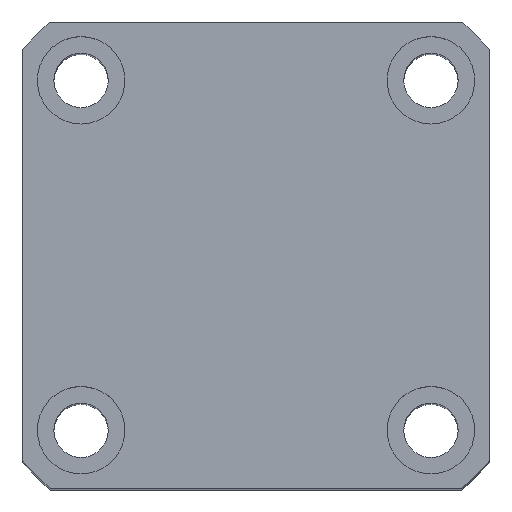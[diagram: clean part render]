
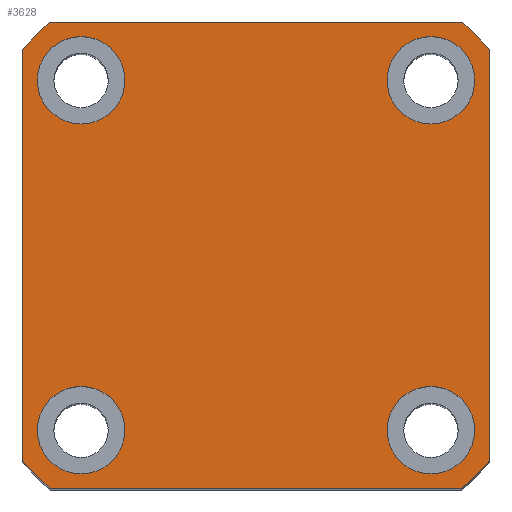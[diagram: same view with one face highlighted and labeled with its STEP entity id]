
A CAD part, top view. The second image highlights one B-rep face of the part: STEP entity #3628.
In plain terms, the highlighted planar face has unit normal (0, 0, 1) as drawn and (1, 0, 0) by its records, which use the part's own axes.
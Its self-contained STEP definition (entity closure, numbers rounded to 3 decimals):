
#113 = DIRECTION ( 'NONE',  ( 0., 0., 1. ) ) ;
#150 = EDGE_CURVE ( 'NONE', #305, #4327, #3850, .T. ) ;
#210 = CIRCLE ( 'NONE', #7398, 4.5 ) ;
#250 = EDGE_CURVE ( 'NONE', #878, #2947, #5671, .T. ) ;
#252 = ORIENTED_EDGE ( 'NONE', *, *, #399, .T. ) ;
#289 = DIRECTION ( 'NONE',  ( 1., 0., 0. ) ) ;
#305 = VERTEX_POINT ( 'NONE', #1514 ) ;
#342 = EDGE_LOOP ( 'NONE', ( #6579, #6403, #2527, #2973, #2454, #1235, #252, #1644 ) ) ;
#399 = EDGE_CURVE ( 'NONE', #5045, #1532, #7583, .T. ) ;
#494 = CARTESIAN_POINT ( 'NONE',  ( 90., 18., 22.5 ) ) ;
#692 = CARTESIAN_POINT ( 'NONE',  ( 90., 21.166, -24. ) ) ;
#705 = CARTESIAN_POINT ( 'NONE',  ( 90., -18., -18. ) ) ;
#721 = ORIENTED_EDGE ( 'NONE', *, *, #150, .F. ) ;
#725 = AXIS2_PLACEMENT_3D ( 'NONE', #1821, #6158, #2448 ) ;
#766 = CARTESIAN_POINT ( 'NONE',  ( 90., 18., 13.5 ) ) ;
#775 = DIRECTION ( 'NONE',  ( 1., 0., 0. ) ) ;
#796 = DIRECTION ( 'NONE',  ( 0., 0., -1. ) ) ;
#825 = DIRECTION ( 'NONE',  ( 1., 0., 0. ) ) ;
#875 = CARTESIAN_POINT ( 'NONE',  ( 90., -24., 24. ) ) ;
#878 = VERTEX_POINT ( 'NONE', #3706 ) ;
#890 = CIRCLE ( 'NONE', #3248, 32. ) ;
#968 = VECTOR ( 'NONE', #1421, 1000. ) ;
#974 = CARTESIAN_POINT ( 'NONE',  ( 90., 24., 21.166 ) ) ;
#1075 = VERTEX_POINT ( 'NONE', #2742 ) ;
#1095 = EDGE_CURVE ( 'NONE', #7780, #1755, #6697, .T. ) ;
#1165 = VERTEX_POINT ( 'NONE', #1957 ) ;
#1183 = DIRECTION ( 'NONE',  ( 1., 0., 0. ) ) ;
#1235 = ORIENTED_EDGE ( 'NONE', *, *, #1430, .T. ) ;
#1258 = CARTESIAN_POINT ( 'NONE',  ( 90., -24., -21.166 ) ) ;
#1309 = DIRECTION ( 'NONE',  ( 0., -1., 0. ) ) ;
#1386 = ORIENTED_EDGE ( 'NONE', *, *, #7491, .F. ) ;
#1415 = CARTESIAN_POINT ( 'NONE',  ( 90., 18., -18. ) ) ;
#1421 = DIRECTION ( 'NONE',  ( 0., 0., -1. ) ) ;
#1430 = EDGE_CURVE ( 'NONE', #1075, #5045, #3943, .T. ) ;
#1452 = CARTESIAN_POINT ( 'NONE',  ( 90., 0., 0. ) ) ;
#1477 = CIRCLE ( 'NONE', #725, 4.5 ) ;
#1494 = LINE ( 'NONE', #7402, #7874 ) ;
#1498 = VERTEX_POINT ( 'NONE', #2482 ) ;
#1514 = CARTESIAN_POINT ( 'NONE',  ( 90., -18., 13.5 ) ) ;
#1532 = VERTEX_POINT ( 'NONE', #1258 ) ;
#1644 = ORIENTED_EDGE ( 'NONE', *, *, #7660, .T. ) ;
#1755 = VERTEX_POINT ( 'NONE', #2821 ) ;
#1792 = DIRECTION ( 'NONE',  ( 1., 0., 0. ) ) ;
#1821 = CARTESIAN_POINT ( 'NONE',  ( 90., 18., -18. ) ) ;
#1957 = CARTESIAN_POINT ( 'NONE',  ( 90., 21.166, 24. ) ) ;
#2101 = DIRECTION ( 'NONE',  ( 0., 0., -1. ) ) ;
#2137 = EDGE_CURVE ( 'NONE', #2947, #878, #210, .T. ) ;
#2190 = CIRCLE ( 'NONE', #6954, 32. ) ;
#2314 = CARTESIAN_POINT ( 'NONE',  ( 90., -18., 22.5 ) ) ;
#2448 = DIRECTION ( 'NONE',  ( 0., 0., -1. ) ) ;
#2454 = ORIENTED_EDGE ( 'NONE', *, *, #3236, .T. ) ;
#2473 = VERTEX_POINT ( 'NONE', #6766 ) ;
#2482 = CARTESIAN_POINT ( 'NONE',  ( 90., -21.166, -24. ) ) ;
#2500 = CARTESIAN_POINT ( 'NONE',  ( 90., 0., 0. ) ) ;
#2524 = DIRECTION ( 'NONE',  ( 1., 0., 0. ) ) ;
#2527 = ORIENTED_EDGE ( 'NONE', *, *, #2571, .T. ) ;
#2571 = EDGE_CURVE ( 'NONE', #2473, #6496, #4060, .T. ) ;
#2742 = CARTESIAN_POINT ( 'NONE',  ( 90., -21.166, 24. ) ) ;
#2821 = CARTESIAN_POINT ( 'NONE',  ( 90., 18., -13.5 ) ) ;
#2896 = EDGE_LOOP ( 'NONE', ( #721, #6880 ) ) ;
#2947 = VERTEX_POINT ( 'NONE', #4817 ) ;
#2973 = ORIENTED_EDGE ( 'NONE', *, *, #3530, .T. ) ;
#3059 = VERTEX_POINT ( 'NONE', #494 ) ;
#3083 = AXIS2_PLACEMENT_3D ( 'NONE', #2500, #2524, #6851 ) ;
#3162 = CARTESIAN_POINT ( 'NONE',  ( 90., 24., 24. ) ) ;
#3171 = LINE ( 'NONE', #3162, #3382 ) ;
#3203 = DIRECTION ( 'NONE',  ( 1., 0., 0. ) ) ;
#3212 = EDGE_CURVE ( 'NONE', #1498, #3276, #1494, .T. ) ;
#3236 = EDGE_CURVE ( 'NONE', #1165, #1075, #3171, .T. ) ;
#3248 = AXIS2_PLACEMENT_3D ( 'NONE', #1452, #5814, #2101 ) ;
#3253 = CARTESIAN_POINT ( 'NONE',  ( 90., -18., -18. ) ) ;
#3276 = VERTEX_POINT ( 'NONE', #692 ) ;
#3283 = CARTESIAN_POINT ( 'NONE',  ( 90., 24., 24. ) ) ;
#3343 = AXIS2_PLACEMENT_3D ( 'NONE', #6884, #3203, #7498 ) ;
#3382 = VECTOR ( 'NONE', #1309, 1000. ) ;
#3392 = EDGE_CURVE ( 'NONE', #3276, #2473, #890, .T. ) ;
#3530 = EDGE_CURVE ( 'NONE', #6496, #1165, #2190, .T. ) ;
#3628 = ADVANCED_FACE ( 'NONE', ( #6531, #6344, #4915, #7970, #4727 ), #5008, .T. ) ;
#3665 = CARTESIAN_POINT ( 'NONE',  ( 90., -18., 18. ) ) ;
#3692 = DIRECTION ( 'NONE',  ( 1., 0., 0. ) ) ;
#3706 = CARTESIAN_POINT ( 'NONE',  ( 90., -18., -13.5 ) ) ;
#3850 = CIRCLE ( 'NONE', #4325, 4.5 ) ;
#3884 = DIRECTION ( 'NONE',  ( 0., 0., -1. ) ) ;
#3943 = CIRCLE ( 'NONE', #4696, 32. ) ;
#4060 = LINE ( 'NONE', #3283, #7124 ) ;
#4199 = ORIENTED_EDGE ( 'NONE', *, *, #2137, .F. ) ;
#4291 = DIRECTION ( 'NONE',  ( 0., 0., -1. ) ) ;
#4325 = AXIS2_PLACEMENT_3D ( 'NONE', #5387, #6056, #4716 ) ;
#4327 = VERTEX_POINT ( 'NONE', #2314 ) ;
#4378 = ORIENTED_EDGE ( 'NONE', *, *, #5444, .F. ) ;
#4416 = EDGE_CURVE ( 'NONE', #4327, #305, #6710, .T. ) ;
#4559 = CARTESIAN_POINT ( 'NONE',  ( 90., 18., 18. ) ) ;
#4696 = AXIS2_PLACEMENT_3D ( 'NONE', #4941, #1183, #5551 ) ;
#4716 = DIRECTION ( 'NONE',  ( 0., 0., -1. ) ) ;
#4727 = FACE_OUTER_BOUND ( 'NONE', #342, .T. ) ;
#4817 = CARTESIAN_POINT ( 'NONE',  ( 90., -18., -22.5 ) ) ;
#4915 = FACE_BOUND ( 'NONE', #7353, .T. ) ;
#4941 = CARTESIAN_POINT ( 'NONE',  ( 90., 0., 0. ) ) ;
#5008 = PLANE ( 'NONE',  #3083 ) ;
#5045 = VERTEX_POINT ( 'NONE', #6841 ) ;
#5087 = EDGE_CURVE ( 'NONE', #3059, #5618, #5207, .T. ) ;
#5170 = DIRECTION ( 'NONE',  ( 0., 0., -1. ) ) ;
#5207 = CIRCLE ( 'NONE', #7269, 4.5 ) ;
#5248 = DIRECTION ( 'NONE',  ( 0., 0., -1. ) ) ;
#5387 = CARTESIAN_POINT ( 'NONE',  ( 90., -18., 18. ) ) ;
#5444 = EDGE_CURVE ( 'NONE', #1755, #7780, #1477, .T. ) ;
#5516 = EDGE_LOOP ( 'NONE', ( #4199, #7670 ) ) ;
#5526 = CARTESIAN_POINT ( 'NONE',  ( 90., 18., 18. ) ) ;
#5551 = DIRECTION ( 'NONE',  ( 0., 0., -1. ) ) ;
#5618 = VERTEX_POINT ( 'NONE', #766 ) ;
#5671 = CIRCLE ( 'NONE', #6778, 4.5 ) ;
#5814 = DIRECTION ( 'NONE',  ( 1., 0., 0. ) ) ;
#5936 = ORIENTED_EDGE ( 'NONE', *, *, #1095, .F. ) ;
#5974 = ORIENTED_EDGE ( 'NONE', *, *, #5087, .F. ) ;
#6055 = AXIS2_PLACEMENT_3D ( 'NONE', #1415, #825, #796 ) ;
#6056 = DIRECTION ( 'NONE',  ( 1., 0., 0. ) ) ;
#6125 = DIRECTION ( 'NONE',  ( 0., 0., -1. ) ) ;
#6158 = DIRECTION ( 'NONE',  ( 1., 0., 0. ) ) ;
#6221 = AXIS2_PLACEMENT_3D ( 'NONE', #3665, #7946, #4291 ) ;
#6344 = FACE_BOUND ( 'NONE', #2896, .T. ) ;
#6403 = ORIENTED_EDGE ( 'NONE', *, *, #3392, .T. ) ;
#6496 = VERTEX_POINT ( 'NONE', #974 ) ;
#6531 = FACE_BOUND ( 'NONE', #5516, .T. ) ;
#6579 = ORIENTED_EDGE ( 'NONE', *, *, #3212, .T. ) ;
#6652 = CARTESIAN_POINT ( 'NONE',  ( 90., 18., -22.5 ) ) ;
#6697 = CIRCLE ( 'NONE', #6055, 4.5 ) ;
#6710 = CIRCLE ( 'NONE', #6221, 4.5 ) ;
#6766 = CARTESIAN_POINT ( 'NONE',  ( 90., 24., -21.166 ) ) ;
#6778 = AXIS2_PLACEMENT_3D ( 'NONE', #705, #289, #5248 ) ;
#6841 = CARTESIAN_POINT ( 'NONE',  ( 90., -24., 21.166 ) ) ;
#6851 = DIRECTION ( 'NONE',  ( 0., 0., -1. ) ) ;
#6880 = ORIENTED_EDGE ( 'NONE', *, *, #4416, .F. ) ;
#6884 = CARTESIAN_POINT ( 'NONE',  ( 90., 0., 0. ) ) ;
#6954 = AXIS2_PLACEMENT_3D ( 'NONE', #7352, #3692, #7971 ) ;
#7102 = CIRCLE ( 'NONE', #3343, 32. ) ;
#7124 = VECTOR ( 'NONE', #113, 1000. ) ;
#7269 = AXIS2_PLACEMENT_3D ( 'NONE', #4559, #775, #5170 ) ;
#7352 = CARTESIAN_POINT ( 'NONE',  ( 90., 0., 0. ) ) ;
#7353 = EDGE_LOOP ( 'NONE', ( #5936, #4378 ) ) ;
#7398 = AXIS2_PLACEMENT_3D ( 'NONE', #3253, #7546, #3884 ) ;
#7402 = CARTESIAN_POINT ( 'NONE',  ( 90., 24., -24. ) ) ;
#7474 = CIRCLE ( 'NONE', #8004, 4.5 ) ;
#7491 = EDGE_CURVE ( 'NONE', #5618, #3059, #7474, .T. ) ;
#7498 = DIRECTION ( 'NONE',  ( 0., 0., -1. ) ) ;
#7546 = DIRECTION ( 'NONE',  ( 1., 0., 0. ) ) ;
#7583 = LINE ( 'NONE', #875, #968 ) ;
#7660 = EDGE_CURVE ( 'NONE', #1532, #1498, #7102, .T. ) ;
#7670 = ORIENTED_EDGE ( 'NONE', *, *, #250, .F. ) ;
#7780 = VERTEX_POINT ( 'NONE', #6652 ) ;
#7874 = VECTOR ( 'NONE', #8018, 1000. ) ;
#7929 = EDGE_LOOP ( 'NONE', ( #1386, #5974 ) ) ;
#7946 = DIRECTION ( 'NONE',  ( 1., 0., 0. ) ) ;
#7970 = FACE_BOUND ( 'NONE', #7929, .T. ) ;
#7971 = DIRECTION ( 'NONE',  ( 0., 0., -1. ) ) ;
#8004 = AXIS2_PLACEMENT_3D ( 'NONE', #5526, #1792, #6125 ) ;
#8018 = DIRECTION ( 'NONE',  ( 0., 1., 0. ) ) ;
